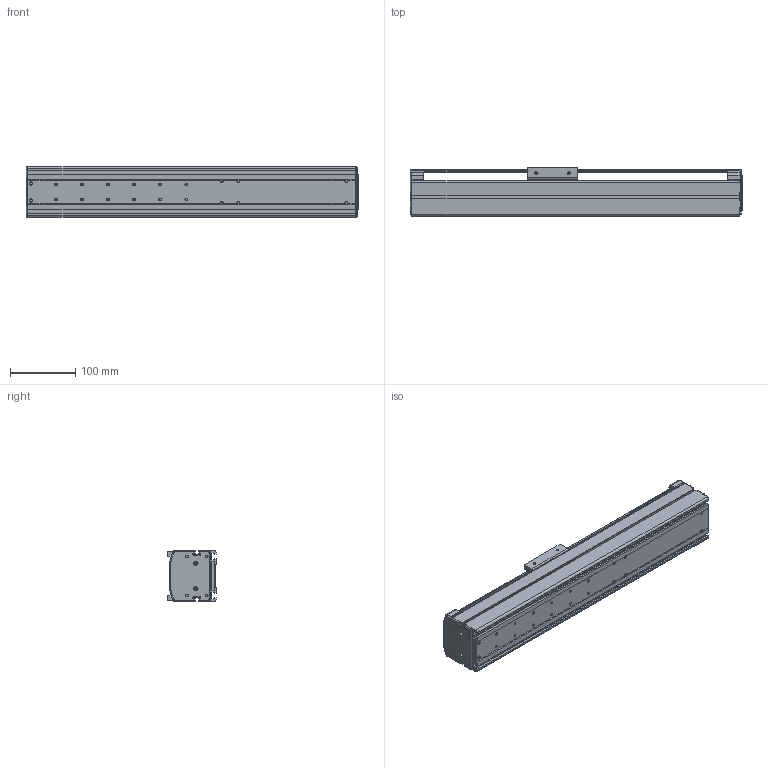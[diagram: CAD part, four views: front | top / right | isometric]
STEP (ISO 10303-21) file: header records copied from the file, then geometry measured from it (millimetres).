
FILE_DESCRIPTION((''),'2;1');
FILE_NAME('BE10E-ST-S_B-15_IGS_PRT','2017-06-17T',(' '),(''),'PRO/ENGINEER BY PARAMETRIC TECHNOLOGY CORPORATION, 2015030','PRO/ENGINEER BY PARAMETRIC TECHNOLOGY CORPORATION, 2015030','');
FILE_SCHEMA(('CONFIG_CONTROL_DESIGN'));
Length unit declared in the file: millimetre
Products named in the file (1): BE10E-ST-S_B-15_IGS_PRT
Bounding box: 510 x 75 x 78 mm (x, y, z)
Volume: 682223.6 mm3; surface area: 415125.1 mm2
Topology: 2 solids, 48 shells, 1066 faces, 2843 edges, 1825 vertices
Faces by surface type: cylinder 492, plane 421, torus 66, sphere 42, cone 38, bspline 7
Entity records: 34198 total; most frequent: CARTESIAN_POINT 6986, DIRECTION 5896, ORIENTED_EDGE 5474, EDGE_CURVE 2825, AXIS2_PLACEMENT_3D 2185, VERTEX_POINT 1825, VECTOR 1526, LINE 1526
